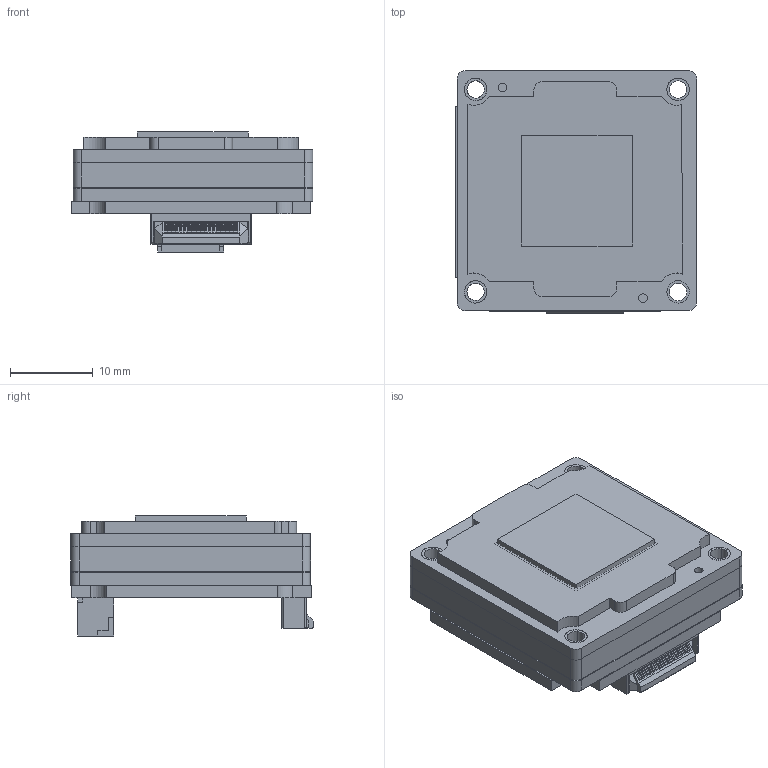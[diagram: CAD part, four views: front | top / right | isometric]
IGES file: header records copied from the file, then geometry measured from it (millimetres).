
Start section: SolidWorks IGES file using analytic representation for surfaces
Global section: file name: F:\mechanical\Documentation\BFS-BD\extracted files\BFS-BD-051-R2 STEPS\BFS-GE_U3-16S2M(C)-BD2.IGS; native system: SolidWorks 2018; preprocessor: SolidWorks 2018; author: DChou; date: 210922.210159; units: millimetre
Bounding box: 29.21 x 29.3 x 14.52 mm (x, y, z)
Volume: 7255.2 mm3; surface area: 11229.7 mm2
Topology: 13 solids, 13 shells, 1104 faces, 3084 edges, 2005 vertices
Faces by surface type: plane 874, revolution 226, bspline 4
